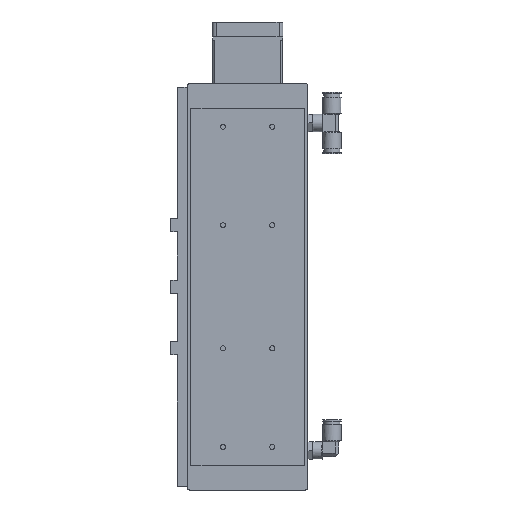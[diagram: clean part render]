
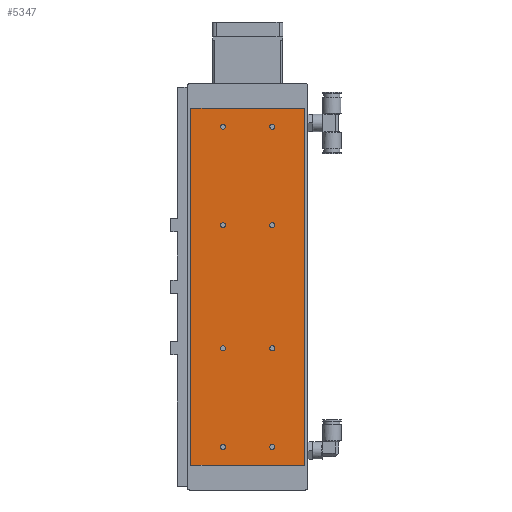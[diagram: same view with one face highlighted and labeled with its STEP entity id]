
A CAD part, front view. The second image highlights one B-rep face of the part: STEP entity #5347.
In plain terms, the highlighted planar face has unit normal (0, -1, 0).
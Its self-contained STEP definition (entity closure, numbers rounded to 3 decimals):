
#4419=CARTESIAN_POINT('',(-17.933,0.0,35.));
#4420=VERTEX_POINT('',#4419);
#4421=CARTESIAN_POINT('',(-20.,0.0,35.));
#4422=DIRECTION('',(0.0,1.0,0.0));
#4423=DIRECTION('',(1.0,0.0,0.0));
#4424=AXIS2_PLACEMENT_3D('',#4421,#4422,#4423);
#4425=CIRCLE('',#4424,2.067);
#4426=EDGE_CURVE('',#4420,#4420,#4425,.T.);
#4477=CARTESIAN_POINT('',(22.067,0.0,35.));
#4478=VERTEX_POINT('',#4477);
#4479=CARTESIAN_POINT('',(20.,0.0,35.));
#4480=DIRECTION('',(0.0,1.0,0.0));
#4481=DIRECTION('',(1.0,0.0,0.0));
#4482=AXIS2_PLACEMENT_3D('',#4479,#4480,#4481);
#4483=CIRCLE('',#4482,2.067);
#4484=EDGE_CURVE('',#4478,#4478,#4483,.T.);
#4535=CARTESIAN_POINT('',(-17.933,0.0,295.0));
#4536=VERTEX_POINT('',#4535);
#4537=CARTESIAN_POINT('',(-20.,0.0,295.0));
#4538=DIRECTION('',(0.0,1.0,0.0));
#4539=DIRECTION('',(1.0,0.0,0.0));
#4540=AXIS2_PLACEMENT_3D('',#4537,#4538,#4539);
#4541=CIRCLE('',#4540,2.067);
#4542=EDGE_CURVE('',#4536,#4536,#4541,.T.);
#4593=CARTESIAN_POINT('',(22.067,0.0,295.0));
#4594=VERTEX_POINT('',#4593);
#4595=CARTESIAN_POINT('',(20.,0.0,295.0));
#4596=DIRECTION('',(0.0,1.0,0.0));
#4597=DIRECTION('',(1.0,0.0,0.0));
#4598=AXIS2_PLACEMENT_3D('',#4595,#4596,#4597);
#4599=CIRCLE('',#4598,2.067);
#4600=EDGE_CURVE('',#4594,#4594,#4599,.T.);
#4651=CARTESIAN_POINT('',(-17.933,0.0,215.0));
#4652=VERTEX_POINT('',#4651);
#4653=CARTESIAN_POINT('',(-20.,0.0,215.0));
#4654=DIRECTION('',(0.0,1.0,0.0));
#4655=DIRECTION('',(1.0,0.0,0.0));
#4656=AXIS2_PLACEMENT_3D('',#4653,#4654,#4655);
#4657=CIRCLE('',#4656,2.067);
#4658=EDGE_CURVE('',#4652,#4652,#4657,.T.);
#4709=CARTESIAN_POINT('',(-17.933,0.0,115.));
#4710=VERTEX_POINT('',#4709);
#4711=CARTESIAN_POINT('',(-20.,0.0,115.));
#4712=DIRECTION('',(0.0,1.0,0.0));
#4713=DIRECTION('',(1.0,0.0,0.0));
#4714=AXIS2_PLACEMENT_3D('',#4711,#4712,#4713);
#4715=CIRCLE('',#4714,2.067);
#4716=EDGE_CURVE('',#4710,#4710,#4715,.T.);
#4767=CARTESIAN_POINT('',(22.067,0.0,115.));
#4768=VERTEX_POINT('',#4767);
#4769=CARTESIAN_POINT('',(20.,0.0,115.));
#4770=DIRECTION('',(0.0,1.0,0.0));
#4771=DIRECTION('',(1.0,0.0,0.0));
#4772=AXIS2_PLACEMENT_3D('',#4769,#4770,#4771);
#4773=CIRCLE('',#4772,2.067);
#4774=EDGE_CURVE('',#4768,#4768,#4773,.T.);
#4825=CARTESIAN_POINT('',(22.067,0.0,215.0));
#4826=VERTEX_POINT('',#4825);
#4827=CARTESIAN_POINT('',(20.,0.0,215.0));
#4828=DIRECTION('',(0.0,1.0,0.0));
#4829=DIRECTION('',(1.0,0.0,0.0));
#4830=AXIS2_PLACEMENT_3D('',#4827,#4828,#4829);
#4831=CIRCLE('',#4830,2.067);
#4832=EDGE_CURVE('',#4826,#4826,#4831,.T.);
#5234=CARTESIAN_POINT('',(46.,0.0,20.));
#5235=VERTEX_POINT('',#5234);
#5242=CARTESIAN_POINT('',(-46.,0.0,20.));
#5243=VERTEX_POINT('',#5242);
#5244=CARTESIAN_POINT('',(-46.,0.0,20.));
#5245=DIRECTION('',(1.0,0.0,0.0));
#5246=VECTOR('',#5245,92.);
#5247=LINE('',#5244,#5246);
#5248=EDGE_CURVE('',#5243,#5235,#5247,.T.);
#5265=CARTESIAN_POINT('',(-46.,0.0,310.0));
#5266=VERTEX_POINT('',#5265);
#5273=CARTESIAN_POINT('',(46.,0.0,310.0));
#5274=VERTEX_POINT('',#5273);
#5275=CARTESIAN_POINT('',(46.,0.0,310.0));
#5276=DIRECTION('',(-1.0,0.0,0.0));
#5277=VECTOR('',#5276,92.);
#5278=LINE('',#5275,#5277);
#5279=EDGE_CURVE('',#5274,#5266,#5278,.T.);
#5296=CARTESIAN_POINT('',(-46.,0.0,20.));
#5297=DIRECTION('',(0.0,0.0,1.0));
#5298=VECTOR('',#5297,290.0);
#5299=LINE('',#5296,#5298);
#5300=EDGE_CURVE('',#5243,#5266,#5299,.T.);
#5307=CARTESIAN_POINT('',(46.,0.0,0.0));
#5308=DIRECTION('',(0.0,-1.0,0.0));
#5309=DIRECTION('',(0.0,0.0,-1.0));
#5310=AXIS2_PLACEMENT_3D('',#5307,#5308,#5309);
#5311=PLANE('',#5310);
#5312=ORIENTED_EDGE('',*,*,#5248,.T.);
#5313=CARTESIAN_POINT('',(46.,0.0,20.));
#5314=DIRECTION('',(0.0,0.0,1.0));
#5315=VECTOR('',#5314,290.0);
#5316=LINE('',#5313,#5315);
#5317=EDGE_CURVE('',#5235,#5274,#5316,.T.);
#5318=ORIENTED_EDGE('',*,*,#5317,.T.);
#5319=ORIENTED_EDGE('',*,*,#5279,.T.);
#5320=ORIENTED_EDGE('',*,*,#5300,.F.);
#5321=EDGE_LOOP('',(#5312,#5318,#5319,#5320));
#5322=FACE_OUTER_BOUND('',#5321,.T.);
#5323=ORIENTED_EDGE('',*,*,#4426,.T.);
#5324=EDGE_LOOP('',(#5323));
#5325=FACE_BOUND('',#5324,.T.);
#5326=ORIENTED_EDGE('',*,*,#4484,.T.);
#5327=EDGE_LOOP('',(#5326));
#5328=FACE_BOUND('',#5327,.T.);
#5329=ORIENTED_EDGE('',*,*,#4542,.T.);
#5330=EDGE_LOOP('',(#5329));
#5331=FACE_BOUND('',#5330,.T.);
#5332=ORIENTED_EDGE('',*,*,#4600,.T.);
#5333=EDGE_LOOP('',(#5332));
#5334=FACE_BOUND('',#5333,.T.);
#5335=ORIENTED_EDGE('',*,*,#4658,.T.);
#5336=EDGE_LOOP('',(#5335));
#5337=FACE_BOUND('',#5336,.T.);
#5338=ORIENTED_EDGE('',*,*,#4716,.T.);
#5339=EDGE_LOOP('',(#5338));
#5340=FACE_BOUND('',#5339,.T.);
#5341=ORIENTED_EDGE('',*,*,#4774,.T.);
#5342=EDGE_LOOP('',(#5341));
#5343=FACE_BOUND('',#5342,.T.);
#5344=ORIENTED_EDGE('',*,*,#4832,.T.);
#5345=EDGE_LOOP('',(#5344));
#5346=FACE_BOUND('',#5345,.T.);
#5347=ADVANCED_FACE('',(#5322,#5325,#5328,#5331,#5334,#5337,#5340,#5343,#5346),#5311,.T.);
